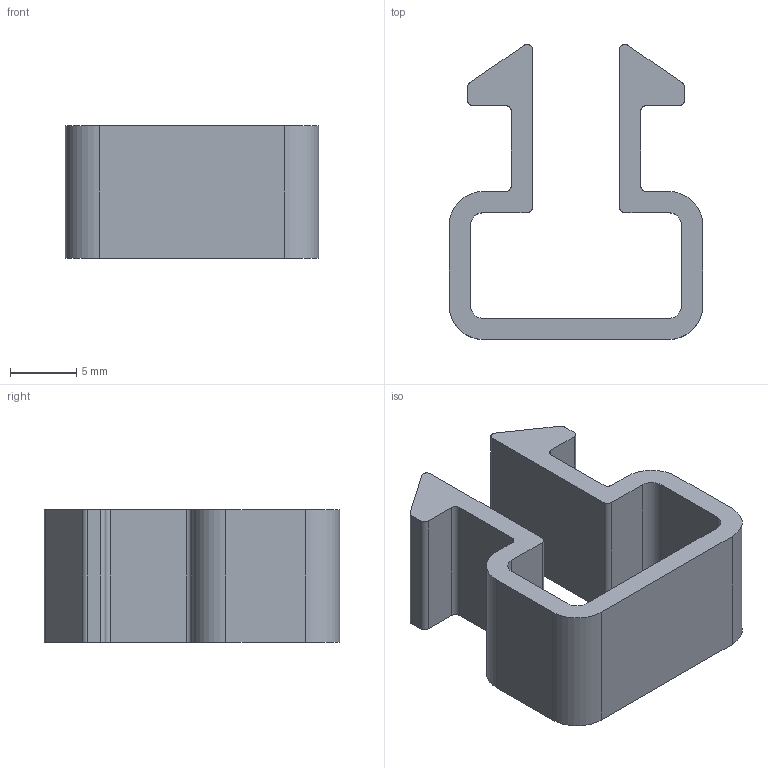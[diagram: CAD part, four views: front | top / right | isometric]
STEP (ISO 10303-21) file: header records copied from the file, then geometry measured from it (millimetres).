
FILE_DESCRIPTION (( 'STEP AP214' ), '1' );
FILE_NAME ('Clips S10-8x16.STEP', '2023-05-26T05:08:37', ( '' ), ( '' ), 'SwSTEP 2.0', 'SolidWorks 2022', '' );
FILE_SCHEMA (( 'AUTOMOTIVE_DESIGN' ));
Length unit declared in the file: millimetre
Products named in the file (1): Clips S10-8x16
Bounding box: 19.2 x 22.33 x 10 mm (x, y, z)
Volume: 1244 mm3; surface area: 1692.7 mm2
Topology: 1 solids, 1 shells, 42 faces, 120 edges, 80 vertices
Faces by surface type: plane 22, cylinder 20
Entity records: 1418 total; most frequent: DIRECTION 246, CARTESIAN_POINT 243, ORIENTED_EDGE 240, EDGE_CURVE 120, AXIS2_PLACEMENT_3D 83, LINE 80, VECTOR 80, VERTEX_POINT 80
